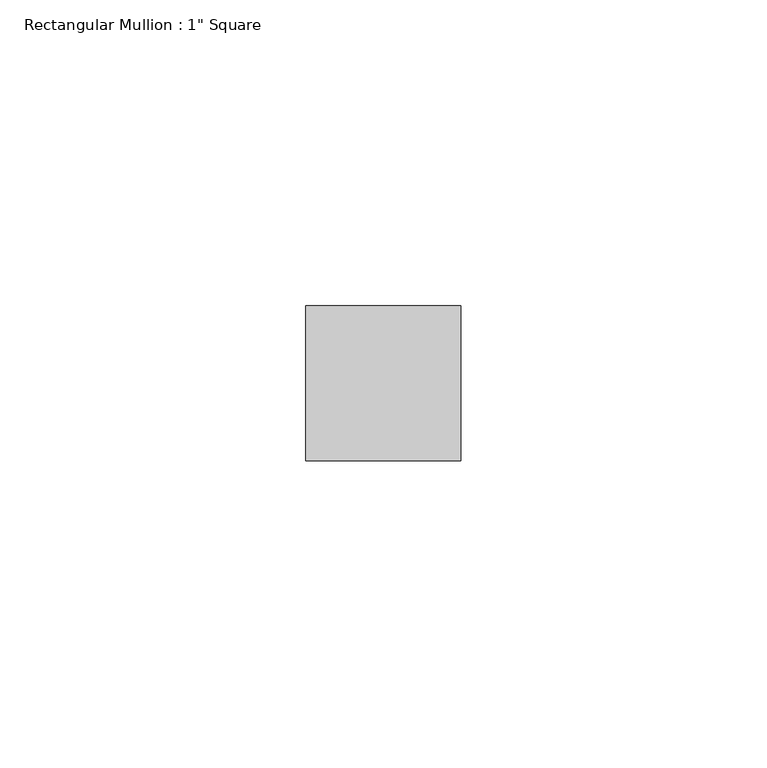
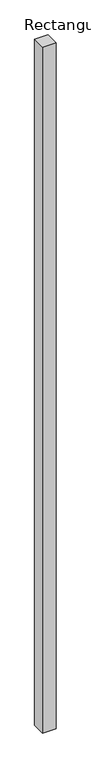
"""IFC4 building model written with IfcOpenShell, lengths in millimetres: member geometry."""

from ifc_helpers import new_model, si_unit, frame, origin, place, context, project, spatial, polyline, outline, extrude, source, transform, mapped, element, save


def member_93a8f3f7(model_context):
    return source(origin(), model_context, "Body", "SweptSolid", [
        extrude(outline(polyline([(0.0, 12.7), (0.0, -12.7), (-25.4, -12.7), (-25.4, 12.7), (0.0, 12.7)])), frame((0.0, 0.0, -1356.6281631), z_axis=(0.0, 0.0, 1.0), x_axis=(1.0, 0.0, 0.0)), (0.0, 0.0, 1.0), 1356.6281631),
    ])


if __name__ == "__main__":
    model = new_model("IFC4")
    model_context = context("Model", 3, world=origin())
    ifc_project = project(units=[si_unit("LENGTHUNIT", "METRE", prefix="MILLI")], contexts=[model_context])
    site = spatial("IfcSite", under=ifc_project)
    building = spatial("IfcBuilding", under=site)
    placement = place(None, origin())
    member_shape = member_93a8f3f7(model_context)
    element("IfcMember", 1, ObjectType="Rectangular Mullion : 1\" Square", at=placement, inside=building, context=model_context, shape_type="MappedRepresentation", body=[
        mapped(member_shape, transform((0.0, 0.0, 0.0), x_axis=(1.0, 0.0, 0.0), y_axis=(0.0, 1.0, 0.0), z_axis=(0.0, 0.0, 1.0))),
    ])
    save(model, "model.ifc")
